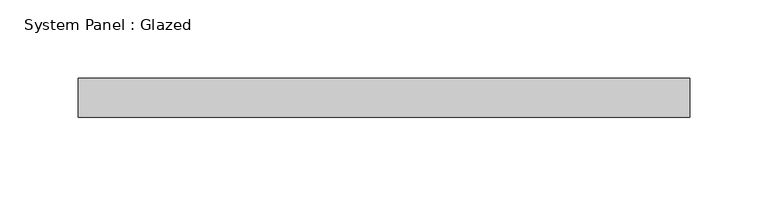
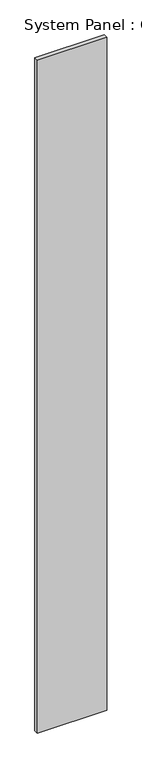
"""IFC4 building model written with IfcOpenShell, lengths in millimetres: plate geometry, System Panel : Glazed."""

from ifc_helpers import new_model, si_unit, origin, origin_with_axes, place, context, project, spatial, polyline, outline, extrude, source, transform, mapped, element, save


def system_panel_glazed_1a5e8b2f(model_context):
    return source(origin(), model_context, "Body", "SweptSolid", [
        extrude(outline(polyline([(195.3984213, -49.5), (-195.3984213, -49.5), (-195.3984213, -24.5), (195.3984213, -24.5), (195.3984213, -49.5)])), origin_with_axes(), (0.0, 0.0, 1.0), 4000.0),
    ])


if __name__ == "__main__":
    model = new_model("IFC4")
    model_context = context("Model", 3, world=origin())
    ifc_project = project(units=[si_unit("LENGTHUNIT", "METRE", prefix="MILLI")], contexts=[model_context])
    site = spatial("IfcSite", under=ifc_project)
    building = spatial("IfcBuilding", under=site)
    placement = place(None, origin())
    system_panel_glazed_shape = system_panel_glazed_1a5e8b2f(model_context)
    element("IfcPlate", 1, ObjectType="System Panel : Glazed", at=placement, inside=building, context=model_context, shape_type="MappedRepresentation", body=[
        mapped(system_panel_glazed_shape, transform((0.0, 0.0, 0.0), x_axis=(1.0, 0.0, 0.0), y_axis=(0.0, 1.0, 0.0), z_axis=(0.0, 0.0, 1.0))),
    ])
    save(model, "model.ifc")
